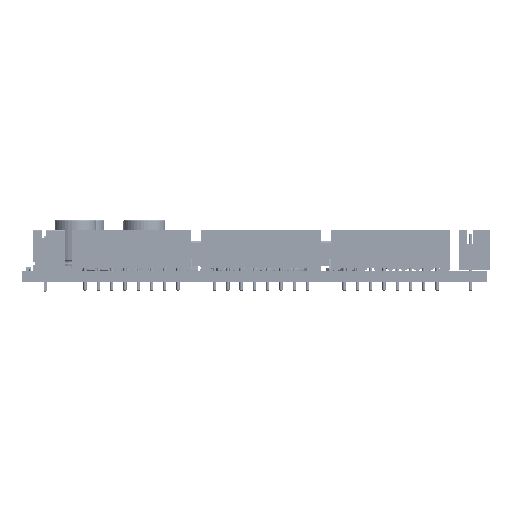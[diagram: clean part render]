
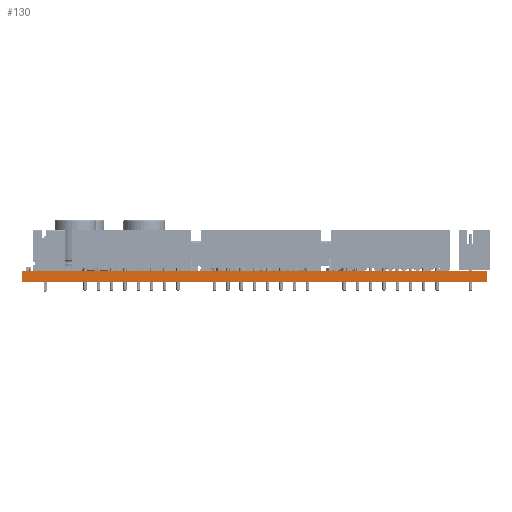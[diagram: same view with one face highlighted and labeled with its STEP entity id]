
A CAD part, left-side view. The second image highlights one B-rep face of the part: STEP entity #130.
In plain terms, the highlighted planar face has unit normal (-1, 0, 0).
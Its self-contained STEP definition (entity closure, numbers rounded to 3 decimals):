
#105 = VERTEX_POINT('',#106);
#106 = CARTESIAN_POINT('',(0.013,0.013,    1.6));
#112 = EDGE_CURVE('',#113,#105,#115,.T.);
#113 = VERTEX_POINT('',#114);
#114 = CARTESIAN_POINT('',(0.013,0.013,0.));
#115 = LINE('',#116,#117);
#116 = CARTESIAN_POINT('',(0.013,0.013,0.));
#117 = VECTOR('',#118,1.);
#118 = DIRECTION('',(0.,0.,1.));
#130 = ADVANCED_FACE('',(#131),#156,.T.);
#131 = FACE_BOUND('',#132,.T.);
#132 = EDGE_LOOP('',(#133,#134,#142,#150));
#133 = ORIENTED_EDGE('',*,*,#112,.T.);
#134 = ORIENTED_EDGE('',*,*,#135,.T.);
#135 = EDGE_CURVE('',#105,#136,#138,.T.);
#136 = VERTEX_POINT('',#137);
#137 = CARTESIAN_POINT('',(0.013,69.987,    1.6));
#138 = LINE('',#139,#140);
#139 = CARTESIAN_POINT('',(0.013,0.013,    1.6));
#140 = VECTOR('',#141,1.);
#141 = DIRECTION('',(0.,1.,0.));
#142 = ORIENTED_EDGE('',*,*,#143,.F.);
#143 = EDGE_CURVE('',#144,#136,#146,.T.);
#144 = VERTEX_POINT('',#145);
#145 = CARTESIAN_POINT('',(0.013,69.987,0.));
#146 = LINE('',#147,#148);
#147 = CARTESIAN_POINT('',(0.013,69.987,0.));
#148 = VECTOR('',#149,1.);
#149 = DIRECTION('',(0.,0.,1.));
#150 = ORIENTED_EDGE('',*,*,#151,.F.);
#151 = EDGE_CURVE('',#113,#144,#152,.T.);
#152 = LINE('',#153,#154);
#153 = CARTESIAN_POINT('',(0.013,0.013,0.));
#154 = VECTOR('',#155,1.);
#155 = DIRECTION('',(0.,1.,0.));
#156 = PLANE('',#157);
#157 = AXIS2_PLACEMENT_3D('',#158,#159,#160);
#158 = CARTESIAN_POINT('',(0.013,0.013,0.));
#159 = DIRECTION('',(-1.,0.,0.));
#160 = DIRECTION('',(0.,1.,0.));
